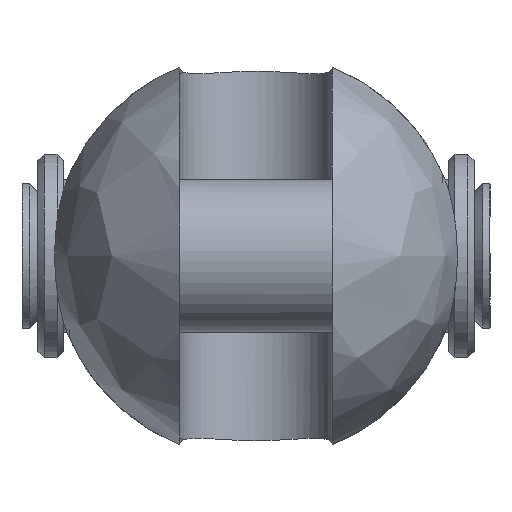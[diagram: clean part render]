
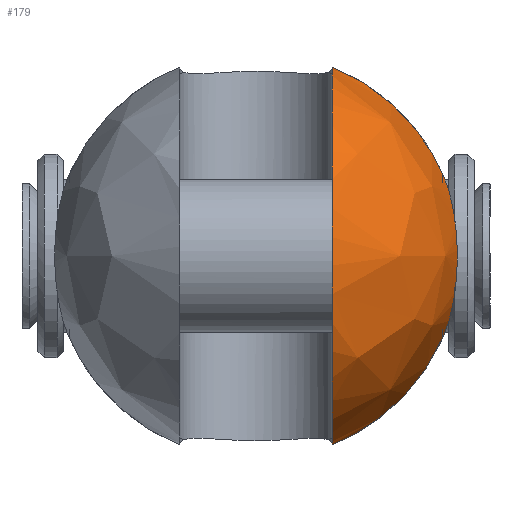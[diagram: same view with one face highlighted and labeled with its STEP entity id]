
A CAD part, left-side view. The second image highlights one B-rep face of the part: STEP entity #179.
In plain terms, the highlighted free-form (B-spline) face has degree [2, 2] with [9, 5] control points.
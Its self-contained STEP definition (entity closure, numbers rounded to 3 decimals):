
#179=ADVANCED_FACE('',(#321),#2442,.T.);
#321=FACE_OUTER_BOUND('',#482,.T.);
#482=EDGE_LOOP('',(#1205,#1206,#1207,#1208));
#1205=ORIENTED_EDGE('',*,*,#1595,.T.);
#1206=ORIENTED_EDGE('',*,*,#1617,.F.);
#1207=ORIENTED_EDGE('',*,*,#1635,.T.);
#1208=ORIENTED_EDGE('',*,*,#1611,.F.);
#1595=EDGE_CURVE('',#2273,#2272,#2004,.T.);
#1611=EDGE_CURVE('',#2273,#2285,#2014,.T.);
#1617=EDGE_CURVE('',#2292,#2272,#2015,.T.);
#1635=EDGE_CURVE('',#2292,#2285,#1806,.T.);
#1806=B_SPLINE_CURVE_WITH_KNOTS('',3,(#6136,#6137,#6138,#6139,#6140,#6141,
#6142,#6143,#6144,#6145,#6146,#6147,#6148,#6149),.UNSPECIFIED.,.F.,.F.,
(4,2,2,2,2,2,4),(-14.033,-13.34,-10.179,
-7.017,-3.855,-0.693,0.),
 .UNSPECIFIED.);
#2004=(
BOUNDED_CURVE()
B_SPLINE_CURVE(2,(#5953,#5954,#5955,#5956,#5957),.UNSPECIFIED.,.F.,.F.)
B_SPLINE_CURVE_WITH_KNOTS((3,2,3),(-46.597,-23.299,
0.),.UNSPECIFIED.)
CURVE()
GEOMETRIC_REPRESENTATION_ITEM()
RATIONAL_B_SPLINE_CURVE((1.,0.707,1.,0.707,1.))
REPRESENTATION_ITEM('')
);
#2014=(
BOUNDED_CURVE()
B_SPLINE_CURVE(2,(#6031,#6032,#6033),.UNSPECIFIED.,.F.,.F.)
B_SPLINE_CURVE_WITH_KNOTS((3,3),(0.,12.589),.UNSPECIFIED.)
CURVE()
GEOMETRIC_REPRESENTATION_ITEM()
RATIONAL_B_SPLINE_CURVE((1.,0.924,1.))
REPRESENTATION_ITEM('')
);
#2015=(
BOUNDED_CURVE()
B_SPLINE_CURVE(2,(#6056,#6057,#6058),.UNSPECIFIED.,.F.,.F.)
B_SPLINE_CURVE_WITH_KNOTS((3,3),(0.,12.589),.UNSPECIFIED.)
CURVE()
GEOMETRIC_REPRESENTATION_ITEM()
RATIONAL_B_SPLINE_CURVE((1.,0.924,1.))
REPRESENTATION_ITEM('')
);
#2272=VERTEX_POINT('',#5821);
#2273=VERTEX_POINT('',#5822);
#2285=VERTEX_POINT('',#5834);
#2292=VERTEX_POINT('',#5841);
#2442=(
BOUNDED_SURFACE()
B_SPLINE_SURFACE(2,2,((#5535,#5536,#5537,#5538,#5539),(#5540,#5541,#5542,
#5543,#5544),(#5545,#5546,#5547,#5548,#5549),(#5550,#5551,#5552,#5553,#5554),
(#5555,#5556,#5557,#5558,#5559),(#5560,#5561,#5562,#5563,#5564),(#5565,
#5566,#5567,#5568,#5569),(#5570,#5571,#5572,#5573,#5574),(#5575,#5576,#5577,
#5578,#5579)),.UNSPECIFIED.,.T.,.F.,.F.)
B_SPLINE_SURFACE_WITH_KNOTS((3,2,2,2,3),(3,2,3),(0.,1.571,3.142,
4.712,6.283),(-1.571,0.,1.571),
 .UNSPECIFIED.)
GEOMETRIC_REPRESENTATION_ITEM()
RATIONAL_B_SPLINE_SURFACE(((1.,0.707,1.,0.707,1.),
(0.707,0.5,0.707,0.5,0.707),(1.,0.707,
1.,0.707,1.),(0.707,0.5,0.707,0.5,0.707),
(1.,0.707,1.,0.707,1.),(0.707,0.5,0.707,
0.5,0.707),(1.,0.707,1.,0.707,1.),(0.707,
0.5,0.707,0.5,0.707),(1.,0.707,1.,0.707,
1.)))
REPRESENTATION_ITEM('')
SURFACE()
);
#5535=CARTESIAN_POINT('',(-22.5,0.,0.));
#5536=CARTESIAN_POINT('',(-22.5,16.,0.));
#5537=CARTESIAN_POINT('',(-6.5,16.,0.));
#5538=CARTESIAN_POINT('',(9.5,16.,0.));
#5539=CARTESIAN_POINT('',(9.5,0.,0.));
#5540=CARTESIAN_POINT('',(-22.5,0.,0.));
#5541=CARTESIAN_POINT('',(-22.5,16.,16.));
#5542=CARTESIAN_POINT('',(-6.5,16.,16.));
#5543=CARTESIAN_POINT('',(9.5,16.,16.));
#5544=CARTESIAN_POINT('',(9.5,0.,0.));
#5545=CARTESIAN_POINT('',(-22.5,0.,0.));
#5546=CARTESIAN_POINT('',(-22.5,0.,16.));
#5547=CARTESIAN_POINT('',(-6.5,0.,16.));
#5548=CARTESIAN_POINT('',(9.5,0.,16.));
#5549=CARTESIAN_POINT('',(9.5,0.,0.));
#5550=CARTESIAN_POINT('',(-22.5,0.,0.));
#5551=CARTESIAN_POINT('',(-22.5,-16.,16.));
#5552=CARTESIAN_POINT('',(-6.5,-16.,16.));
#5553=CARTESIAN_POINT('',(9.5,-16.,16.));
#5554=CARTESIAN_POINT('',(9.5,0.,0.));
#5555=CARTESIAN_POINT('',(-22.5,0.,0.));
#5556=CARTESIAN_POINT('',(-22.5,-16.,0.));
#5557=CARTESIAN_POINT('',(-6.5,-16.,0.));
#5558=CARTESIAN_POINT('',(9.5,-16.,0.));
#5559=CARTESIAN_POINT('',(9.5,0.,0.));
#5560=CARTESIAN_POINT('',(-22.5,0.,0.));
#5561=CARTESIAN_POINT('',(-22.5,-16.,-16.));
#5562=CARTESIAN_POINT('',(-6.5,-16.,-16.));
#5563=CARTESIAN_POINT('',(9.5,-16.,-16.));
#5564=CARTESIAN_POINT('',(9.5,0.,0.));
#5565=CARTESIAN_POINT('',(-22.5,0.,0.));
#5566=CARTESIAN_POINT('',(-22.5,0.,-16.));
#5567=CARTESIAN_POINT('',(-6.5,0.,-16.));
#5568=CARTESIAN_POINT('',(9.5,0.,-16.));
#5569=CARTESIAN_POINT('',(9.5,0.,0.));
#5570=CARTESIAN_POINT('',(-22.5,0.,0.));
#5571=CARTESIAN_POINT('',(-22.5,16.,-16.));
#5572=CARTESIAN_POINT('',(-6.5,16.,-16.));
#5573=CARTESIAN_POINT('',(9.5,16.,-16.));
#5574=CARTESIAN_POINT('',(9.5,0.,0.));
#5575=CARTESIAN_POINT('',(-22.5,0.,0.));
#5576=CARTESIAN_POINT('',(-22.5,16.,0.));
#5577=CARTESIAN_POINT('',(-6.5,16.,0.));
#5578=CARTESIAN_POINT('',(9.5,16.,0.));
#5579=CARTESIAN_POINT('',(9.5,0.,0.));
#5821=CARTESIAN_POINT('',(-6.5,-6.,-14.832));
#5822=CARTESIAN_POINT('',(-6.5,-6.,14.832));
#5834=CARTESIAN_POINT('',(-6.5,-14.739,6.225));
#5841=CARTESIAN_POINT('',(-6.5,-14.739,-6.225));
#5953=CARTESIAN_POINT('',(-6.5,-6.,14.832));
#5954=CARTESIAN_POINT('',(-21.332,-6.,14.832));
#5955=CARTESIAN_POINT('',(-21.332,-6.,0.));
#5956=CARTESIAN_POINT('',(-21.332,-6.,-14.832));
#5957=CARTESIAN_POINT('',(-6.5,-6.,-14.832));
#6031=CARTESIAN_POINT('',(-6.5,-6.,14.832));
#6032=CARTESIAN_POINT('',(-6.5,-12.156,12.342));
#6033=CARTESIAN_POINT('',(-6.5,-14.739,6.225));
#6056=CARTESIAN_POINT('',(-6.5,-14.739,-6.225));
#6057=CARTESIAN_POINT('',(-6.5,-12.156,-12.342));
#6058=CARTESIAN_POINT('',(-6.5,-6.,-14.832));
#6136=CARTESIAN_POINT('',(-6.5,-14.739,-6.225));
#6137=CARTESIAN_POINT('',(-6.649,-14.805,-6.069));
#6138=CARTESIAN_POINT('',(-6.792,-14.868,-5.909));
#6139=CARTESIAN_POINT('',(-7.547,-15.196,-4.999));
#6140=CARTESIAN_POINT('',(-8.093,-15.427,-4.078));
#6141=CARTESIAN_POINT('',(-8.82,-15.73,-2.081));
#6142=CARTESIAN_POINT('',(-9.,-15.803,-1.006));
#6143=CARTESIAN_POINT('',(-9.,-15.803,1.006));
#6144=CARTESIAN_POINT('',(-8.82,-15.73,2.081));
#6145=CARTESIAN_POINT('',(-8.093,-15.427,4.078));
#6146=CARTESIAN_POINT('',(-7.547,-15.196,4.999));
#6147=CARTESIAN_POINT('',(-6.792,-14.868,5.909));
#6148=CARTESIAN_POINT('',(-6.649,-14.805,6.069));
#6149=CARTESIAN_POINT('',(-6.5,-14.739,6.225));
